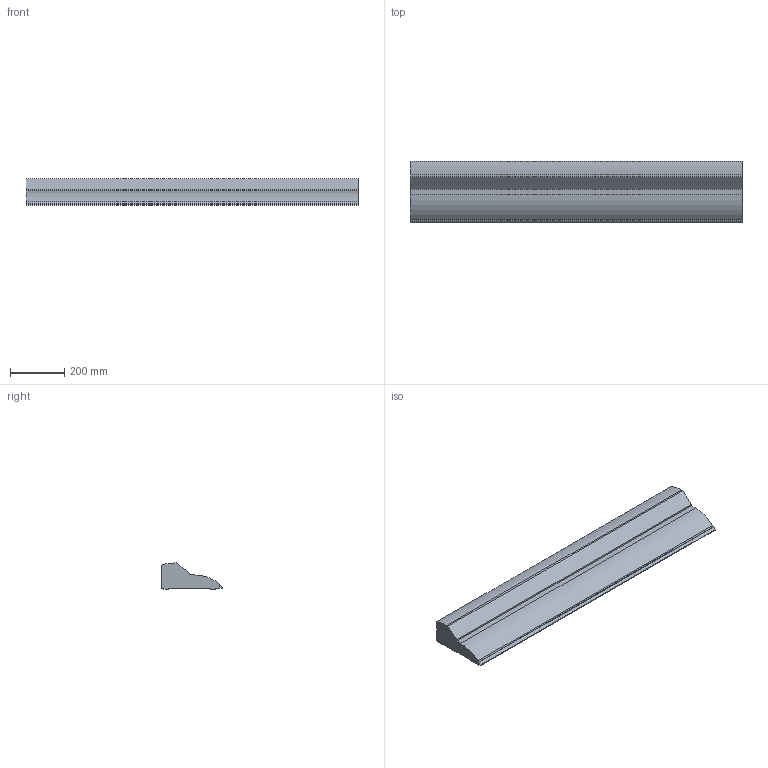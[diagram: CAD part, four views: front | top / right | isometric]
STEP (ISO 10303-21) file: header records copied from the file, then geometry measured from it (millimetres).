
FILE_DESCRIPTION(/* description */ ('Unknown'),/* implementation_level */ '2;1');
FILE_NAME(/* name */ '3D_Footsie2-Slim_w_diffuser',/* time_stamp */ '2024-05-16T08:11:33+02:00',/* author */ ('vaclavek'),/* organization */ ('ROBE lighting s.r.o.'),/* preprocessor_version */ 'ST-DEVELOPER v19.4',/* originating_system */ 'Solid Edge',/* authorisation */ 'Unknown');
FILE_SCHEMA (('AUTOMOTIVE_DESIGN {1 0 10303 214 3 1 1}'));
Length unit declared in the file: millimetre
Products named in the file (1): 3D_Footsie2-Slim
Bounding box: 1229 x 228.1 x 96.46 mm (x, y, z)
Volume: 16682711.9 mm3; surface area: 751094.2 mm2
Topology: 1 solids, 1 shells, 24 faces, 66 edges, 44 vertices
Faces by surface type: plane 16, cylinder 8
Entity records: 796 total; most frequent: CARTESIAN_POINT 135, ORIENTED_EDGE 132, DIRECTION 132, EDGE_CURVE 66, LINE 50, VECTOR 50, VERTEX_POINT 44, AXIS2_PLACEMENT_3D 41
